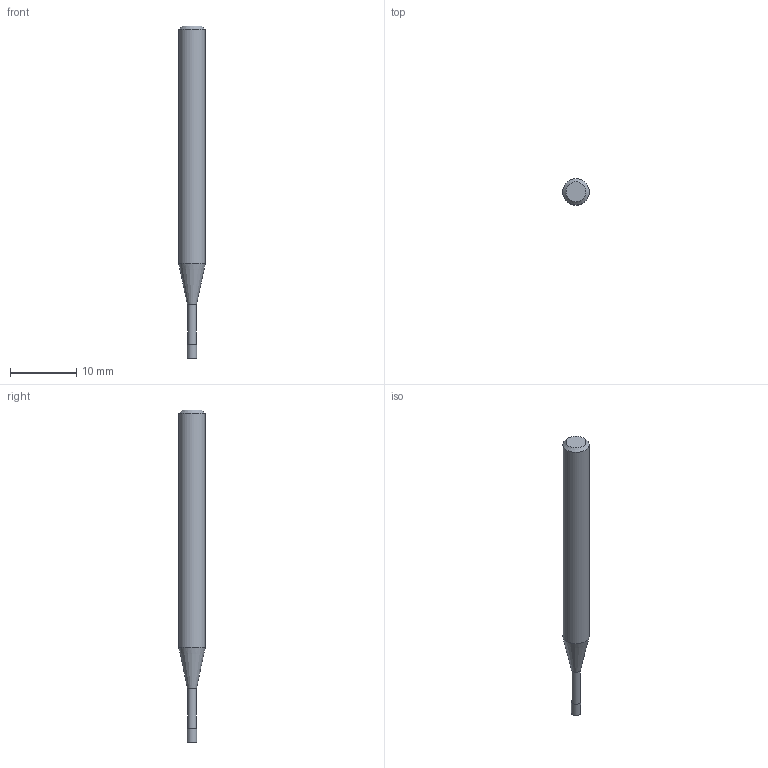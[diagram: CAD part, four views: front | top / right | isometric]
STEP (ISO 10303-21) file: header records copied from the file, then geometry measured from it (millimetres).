
FILE_DESCRIPTION((''),'2;1');
FILE_NAME('C:\Users\nsx150\AppData\Local\Temp\Mastercam 2021\17T8Q8S9EB\TEMP.step','2021-04-21T16:14:38',(''),(''),'STEP Write','Mastercam 2021 ... CNC Software, Inc.','');
FILE_SCHEMA(('AUTOMOTIVE_DESIGN'));
Length unit declared in the file: millimetre
Products named in the file (1): None
Bounding box: 4 x 4 x 50 mm (x, y, z)
Volume: 497.6 mm3; surface area: 550.3 mm2
Topology: 2 solids, 2 shells, 9 faces, 12 edges, 7 vertices
Faces by surface type: plane 4, cylinder 3, cone 2
Full cylindrical faces by diameter (mm): 1.35 x1, 1.4 x1, 4 x1
Entity records: 211 total; most frequent: DIRECTION 36, CARTESIAN_POINT 25, AXIS2_PLACEMENT_3D 18, ORIENTED_EDGE 14, EDGE_LOOP 14, STYLED_ITEM 12, ADVANCED_FACE 9, FACE_BOUND 8
